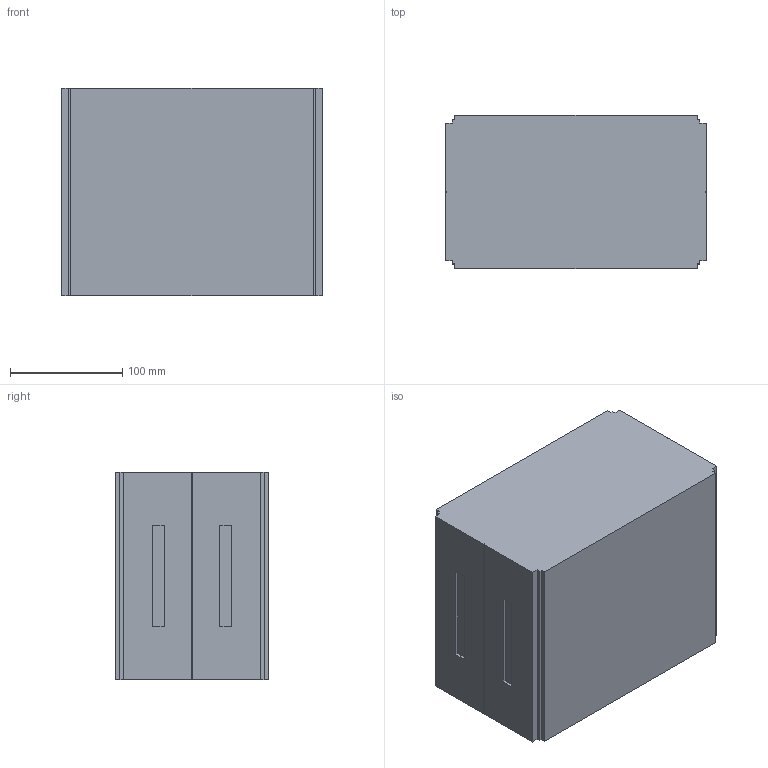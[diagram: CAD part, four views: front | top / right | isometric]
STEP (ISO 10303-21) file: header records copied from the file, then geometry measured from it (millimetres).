
FILE_DESCRIPTION (( 'STEP AP214' ), '1' );
FILE_NAME ('FS-MTC2-150-INOX Kettingmont. eenheid.230 Kettingmont.STEP', '2017-02-08T12:41:21', ( '' ), ( '' ), 'SwSTEP 2.0', 'SolidWorks 2016', '' );
FILE_SCHEMA (( 'AUTOMOTIVE_DESIGN' ));
Length unit declared in the file: millimetre
Products named in the file (1): FS-MTC2-150-INOX Kettingmont. eenheid.230 Kettingmont
Bounding box: 232.5 x 136.5 x 185 mm (x, y, z)
Volume: 5823445.8 mm3; surface area: 202348.9 mm2
Topology: 1 solids, 1 shells, 50 faces, 132 edges, 88 vertices
Faces by surface type: plane 50
Entity records: 1550 total; most frequent: CARTESIAN_POINT 271, ORIENTED_EDGE 264, DIRECTION 234, LINE 132, VECTOR 132, EDGE_CURVE 132, VERTEX_POINT 88, EDGE_LOOP 54
